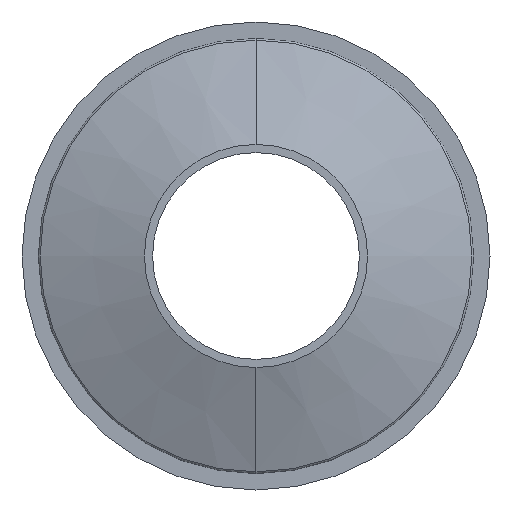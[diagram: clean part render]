
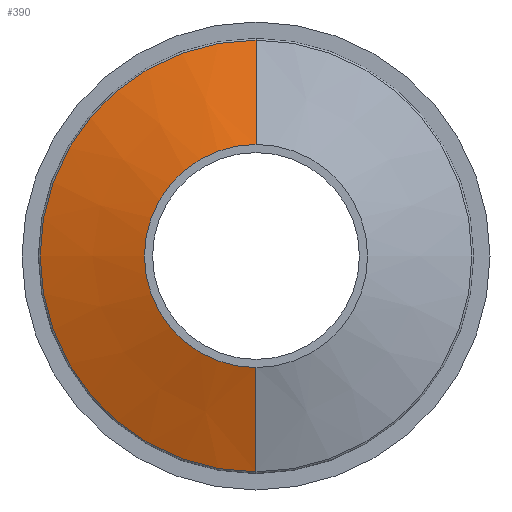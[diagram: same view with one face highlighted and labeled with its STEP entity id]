
A CAD part, left-side view. The second image highlights one B-rep face of the part: STEP entity #390.
In plain terms, the highlighted conical face has half-angle 70 degrees and reference radius 39.67 mm.
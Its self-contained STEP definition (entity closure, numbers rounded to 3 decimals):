
#25 = CARTESIAN_POINT ( 'NONE',  ( -13.419, 0., 0. ) ) ;
#53 = CIRCLE ( 'NONE', #351, 20.5 ) ;
#66 = VERTEX_POINT ( 'NONE', #530 ) ;
#83 = CARTESIAN_POINT ( 'NONE',  ( -6.442, 0., 0. ) ) ;
#125 = CONICAL_SURFACE ( 'NONE', #261, 39.67, 1.222 ) ;
#127 = ORIENTED_EDGE ( 'NONE', *, *, #175, .T. ) ;
#131 = CARTESIAN_POINT ( 'NONE',  ( -6.442, 0., 39.67 ) ) ;
#144 = CIRCLE ( 'NONE', #279, 39.67 ) ;
#151 = CARTESIAN_POINT ( 'NONE',  ( -6.442, 0., 0. ) ) ;
#153 = EDGE_CURVE ( 'NONE', #240, #373, #144, .T. ) ;
#165 = ORIENTED_EDGE ( 'NONE', *, *, #477, .F. ) ;
#175 = EDGE_CURVE ( 'NONE', #66, #240, #318, .T. ) ;
#181 = DIRECTION ( 'NONE',  ( -1., 0., 0. ) ) ;
#186 = LINE ( 'NONE', #393, #516 ) ;
#205 = CARTESIAN_POINT ( 'NONE',  ( -6.442, 0., 39.67 ) ) ;
#240 = VERTEX_POINT ( 'NONE', #205 ) ;
#258 = ORIENTED_EDGE ( 'NONE', *, *, #425, .F. ) ;
#261 = AXIS2_PLACEMENT_3D ( 'NONE', #151, #440, #346 ) ;
#262 = DIRECTION ( 'NONE',  ( 0.342, 0., -0.94 ) ) ;
#279 = AXIS2_PLACEMENT_3D ( 'NONE', #83, #397, #356 ) ;
#295 = DIRECTION ( 'NONE',  ( 0.342, 0., 0.94 ) ) ;
#303 = EDGE_LOOP ( 'NONE', ( #165, #127, #338, #258 ) ) ;
#306 = DIRECTION ( 'NONE',  ( 0., 0., 1. ) ) ;
#318 = LINE ( 'NONE', #131, #473 ) ;
#338 = ORIENTED_EDGE ( 'NONE', *, *, #153, .T. ) ;
#346 = DIRECTION ( 'NONE',  ( 0., 0., -1. ) ) ;
#351 = AXIS2_PLACEMENT_3D ( 'NONE', #25, #181, #306 ) ;
#353 = FACE_OUTER_BOUND ( 'NONE', #303, .T. ) ;
#356 = DIRECTION ( 'NONE',  ( 0., 0., 1. ) ) ;
#362 = CARTESIAN_POINT ( 'NONE',  ( -13.419, 0., -20.5 ) ) ;
#373 = VERTEX_POINT ( 'NONE', #471 ) ;
#390 = ADVANCED_FACE ( 'NONE', ( #353 ), #125, .T. ) ;
#393 = CARTESIAN_POINT ( 'NONE',  ( -6.442, 0., -39.67 ) ) ;
#397 = DIRECTION ( 'NONE',  ( -1., 0., 0. ) ) ;
#425 = EDGE_CURVE ( 'NONE', #520, #373, #186, .T. ) ;
#440 = DIRECTION ( 'NONE',  ( 1., 0., 0. ) ) ;
#471 = CARTESIAN_POINT ( 'NONE',  ( -6.442, 0., -39.67 ) ) ;
#473 = VECTOR ( 'NONE', #295, 1000. ) ;
#477 = EDGE_CURVE ( 'NONE', #66, #520, #53, .T. ) ;
#516 = VECTOR ( 'NONE', #262, 1000. ) ;
#520 = VERTEX_POINT ( 'NONE', #362 ) ;
#530 = CARTESIAN_POINT ( 'NONE',  ( -13.419, 0., 20.5 ) ) ;
